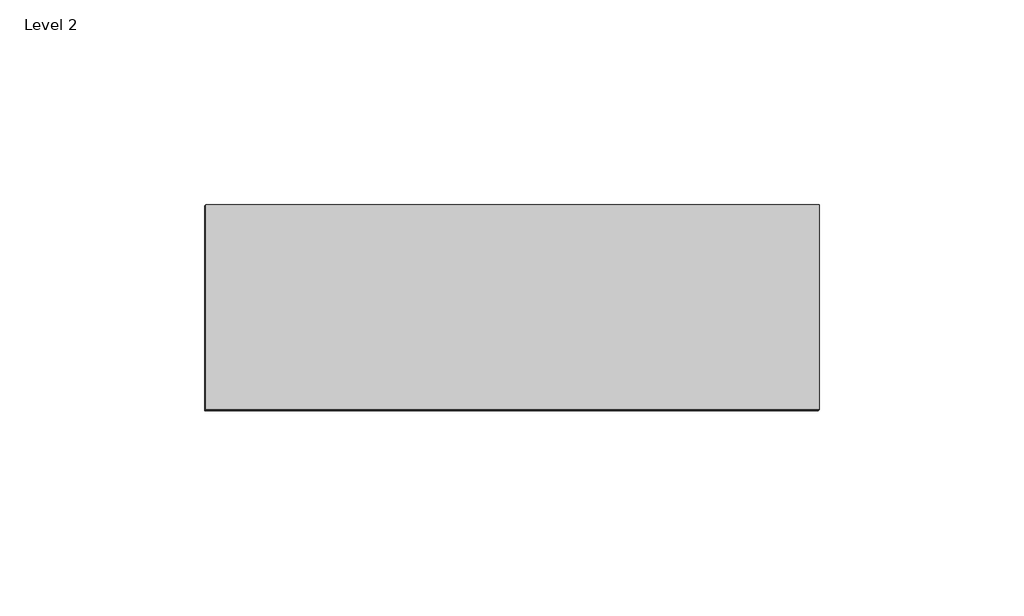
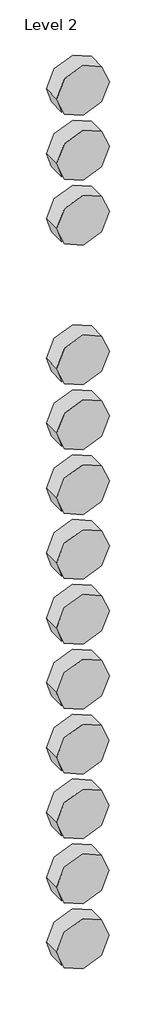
# One storey: 13 proxies.
"""IFC4 building model written with IfcOpenShell, lengths in millimetres."""

import ifcopenshell
import ifcopenshell.guid

model = None  # the IFC model being written
_history = None  # IfcOwnerHistory: only IFC2X3 demands one
_inside = {}  # id of a spatial element -> (the spatial element, [elements in it])
_under = {}  # id of a project, library or spatial element -> (it, [spatial elements below it])
_declared = {}  # id of a project -> (the project, [libraries it declares])
_typed = {}  # id of a type object -> (the type object, [elements of that type])
_made_of = {}  # id of a material, layer set ... -> (it, [elements and type objects made of it])


def new_model(schema):
    """Start an empty IFC model of exactly this schema.

    Asked for "IFC4X3", IfcOpenShell would pick the latest addendum, in which some entities
    have other attributes; the version numbers below select the first issue.
    IFC2X3 requires an IfcOwnerHistory on every rooted entity: one is made here for all.
    """
    global model, _history
    if schema == "IFC4X3":
        model = ifcopenshell.file(schema_version=(4, 3, 0, 0))
    else:
        model = ifcopenshell.file(schema=schema)
    _inside.clear()
    _under.clear()
    _declared.clear()
    _typed.clear()
    _made_of.clear()
    _history = None
    if model.schema == "IFC2X3":
        org = make("IfcOrganization", Name="unknown")
        user = make(
            "IfcPersonAndOrganization",
            ThePerson=make("IfcPerson", FamilyName="unknown"),
            TheOrganization=org,
        )
        app = make(
            "IfcApplication",
            ApplicationDeveloper=org,
            Version="unknown",
            ApplicationFullName="unknown",
            ApplicationIdentifier="unknown",
        )
        _history = make(
            "IfcOwnerHistory",
            OwningUser=user,
            OwningApplication=app,
            ChangeAction="ADDED",
            CreationDate=0,
        )
    return model


def make(cls, **values):
    """One entity of the class cls with the attributes given. An attribute that is None is left unset."""
    return model.create_entity(
        cls, **{name: value for name, value in values.items() if value is not None}
    )


def rooted(cls, **values):
    """An entity with a GlobalId (a new one), such as an element, a storey or a relation."""
    return make(cls, GlobalId=ifcopenshell.guid.new(), OwnerHistory=_history, **values)


def si_unit(unit_type, name, prefix=None):
    """IfcSIUnit, for example si_unit("LENGTHUNIT", "METRE", prefix="MILLI")."""
    return make("IfcSIUnit", UnitType=unit_type, Prefix=prefix, Name=name)


def assignment(units):
    """IfcUnitAssignment: the units of a project."""
    return None if units is None else make("IfcUnitAssignment", Units=units)


def point(xyz):
    """IfcCartesianPoint."""
    return None if xyz is None else make("IfcCartesianPoint", Coordinates=xyz)


def direction(xyz):
    """IfcDirection."""
    return None if xyz is None else make("IfcDirection", DirectionRatios=xyz)


def frame(location, z_axis=None, x_axis=None):
    """IfcAxis2Placement3D, a coordinate frame: its origin and axes. An axis left out is left unset."""
    return make(
        "IfcAxis2Placement3D",
        Location=point(location),
        Axis=direction(z_axis),
        RefDirection=direction(x_axis),
    )


def frame_2d(location, x_axis=None):
    """IfcAxis2Placement2D, a coordinate frame in the plane: its origin and x axis."""
    return make(
        "IfcAxis2Placement2D", Location=point(location), RefDirection=direction(x_axis)
    )


def origin():
    """The frame at (0, 0, 0) with its axes left unset."""
    return frame((0.0, 0.0, 0.0))


def place(relative_to, where):
    """IfcLocalPlacement: puts the frame where relative to a parent placement (None: the world)."""
    return make(
        "IfcLocalPlacement", PlacementRelTo=relative_to, RelativePlacement=where
    )


def context(
    kind, dimensions, precision=None, world=None, true_north=None, identifier=None
):
    """IfcGeometricRepresentationContext, for example the 3D "Model" context."""
    return make(
        "IfcGeometricRepresentationContext",
        ContextIdentifier=identifier,
        ContextType=kind,
        CoordinateSpaceDimension=dimensions,
        Precision=precision,
        WorldCoordinateSystem=world,
        TrueNorth=true_north,
    )


def project(units=None, contexts=None):
    """IfcProject with its units and contexts."""
    return rooted(
        "IfcProject",
        Name="project",
        RepresentationContexts=contexts,
        UnitsInContext=assignment(units),
    )


def spatial(cls, under=None, at=None, **own):
    """A site, building, storey or space (cls), placed at a placement, below another one or the project."""
    s = rooted(cls, ObjectPlacement=at, **own)
    if under is not None:
        _under.setdefault(under.id(), (under, []))[1].append(s)
    return s


def circle_curve(where, radius):
    """IfcCircle in the frame where."""
    return make("IfcCircle", Position=where, Radius=radius)


def trimmed(basis, trim1, trim2, sense, master):
    """IfcTrimmedCurve: the piece of a basis curve between two trims."""
    return make(
        "IfcTrimmedCurve",
        BasisCurve=basis,
        Trim1=trim1,
        Trim2=trim2,
        SenseAgreement=sense,
        MasterRepresentation=master,
    )


def segment(curve, same_sense, transition):
    """IfcCompositeCurveSegment."""
    return make(
        "IfcCompositeCurveSegment",
        Transition=transition,
        SameSense=same_sense,
        ParentCurve=curve,
    )


def composite_curve(segments, self_intersect=None):
    """IfcCompositeCurve: segments joined end to end."""
    return make("IfcCompositeCurve", Segments=segments, SelfIntersect=self_intersect)


def outline(outer, holes=None, kind="AREA"):
    """IfcArbitraryClosedProfileDef: a profile drawn as a closed curve; with holes, ...WithVoids."""
    if holes is None:
        return make("IfcArbitraryClosedProfileDef", ProfileType=kind, OuterCurve=outer)
    return make(
        "IfcArbitraryProfileDefWithVoids",
        ProfileType=kind,
        OuterCurve=outer,
        InnerCurves=holes,
    )


def extrude(swept, where, along, depth):
    """IfcExtrudedAreaSolid: the profile swept, set in the frame where, extruded along a direction by depth."""
    return make(
        "IfcExtrudedAreaSolid",
        SweptArea=swept,
        Position=where,
        ExtrudedDirection=direction(along),
        Depth=depth,
    )


def shape(context_of_items, identifier, shape_type, items):
    """IfcShapeRepresentation: the items that make up one representation, for example the "Body"."""
    return make(
        "IfcShapeRepresentation",
        ContextOfItems=context_of_items,
        RepresentationIdentifier=identifier,
        RepresentationType=shape_type,
        Items=items,
    )


def source(mapping_origin, context_of_items, identifier, shape_type, items):
    """IfcRepresentationMap: a shape defined once, which mapped items show again and again."""
    return make(
        "IfcRepresentationMap",
        MappingOrigin=mapping_origin,
        MappedRepresentation=shape(context_of_items, identifier, shape_type, items),
    )


def transform(
    local_origin,
    x_axis=None,
    y_axis=None,
    z_axis=None,
    scale=None,
    scale2=None,
    scale3=None,
    uniform=True,
):
    """IfcCartesianTransformationOperator3D, or its non-uniform kind. x_axis, y_axis, z_axis: its Axis1, 2, 3."""
    if uniform:
        return make(
            "IfcCartesianTransformationOperator3D",
            Axis1=direction(x_axis),
            Axis2=direction(y_axis),
            LocalOrigin=point(local_origin),
            Scale=scale,
            Axis3=direction(z_axis),
        )
    return make(
        "IfcCartesianTransformationOperator3DnonUniform",
        Axis1=direction(x_axis),
        Axis2=direction(y_axis),
        LocalOrigin=point(local_origin),
        Scale=scale,
        Axis3=direction(z_axis),
        Scale2=scale2,
        Scale3=scale3,
    )


def mapped(mapping_source, mapping_target):
    """IfcMappedItem: shows the shape of a source again, moved by a transform."""
    return make(
        "IfcMappedItem", MappingSource=mapping_source, MappingTarget=mapping_target
    )


def made_of(thing, what):
    """Note that an element or type object is made of a material, layer set ...; save() writes the relation."""
    if what is not None:
        _made_of.setdefault(what.id(), (what, []))[1].append(thing)
    return thing


def element(
    cls,
    number,
    at=None,
    inside=None,
    cuts=None,
    type_object=None,
    material=None,
    context=None,
    identifier="Body",
    shape_type=None,
    held_by="IfcProductDefinitionShape",
    body=None,
    shapes=None,
    **own,
):
    """One element of the class cls, such as IfcWall. Its Tag is "e" and its number.

    at: its placement. inside: the storey or other place that contains it. cuts: it is an
    opening in that element (IfcRelVoidsElement). A single representation is given by context,
    identifier, shape_type and body (its items); several are given by shapes. held_by: the class
    of the entity that holds the representations. save() writes the other relations.
    """
    e = rooted(cls, Tag="e%d" % number, ObjectPlacement=at, **own)
    if body is not None:
        shapes = [shape(context, identifier, shape_type, body)]
    if shapes is not None:
        e.Representation = make(held_by, Representations=shapes)
    if inside is not None:
        _inside.setdefault(inside.id(), (inside, []))[1].append(e)
    if cuts is not None:
        rooted(
            "IfcRelVoidsElement", RelatingBuildingElement=cuts, RelatedOpeningElement=e
        )
    if type_object is not None:
        _typed.setdefault(type_object.id(), (type_object, []))[1].append(e)
    return made_of(e, material)


def aggregate(whole, parts):
    """IfcRelAggregates: a whole, such as a stair, and the parts it consists of."""
    return rooted("IfcRelAggregates", RelatingObject=whole, RelatedObjects=parts)


def save(model, path):
    """Write the relations noted so far, then the file.

    IfcRelAggregates (storeys below a building ...), IfcRelContainedInSpatialStructure (elements
    in a storey), IfcRelDefinesByType, IfcRelAssociatesMaterial and IfcRelDeclares: one each for
    every whole, place, type object, material and project.
    """
    for whole, parts in _under.values():
        aggregate(whole, parts)
    for where, things in _inside.values():
        rooted(
            "IfcRelContainedInSpatialStructure",
            RelatedElements=things,
            RelatingStructure=where,
        )
    for kind, things in _typed.values():
        rooted("IfcRelDefinesByType", RelatedObjects=things, RelatingType=kind)
    for what, things in _made_of.values():
        rooted("IfcRelAssociatesMaterial", RelatedObjects=things, RelatingMaterial=what)
    for by, libraries in _declared.values():
        rooted("IfcRelDeclares", RelatingContext=by, RelatedDefinitions=libraries)
    model.write(path)


def materialmodel_materialmodel_17b3a4fc(model_context):
    return source(origin(), model_context, "Body", "SweptSolid", [
        extrude(outline(composite_curve([segment(trimmed(circle_curve(frame_2d((300.0, 0.0)), 75.0), [point((300.0, -75.0))], [point((300.0, 75.0))], False, "CARTESIAN"), True, "CONTINUOUS"), segment(trimmed(circle_curve(frame_2d((300.0, 0.0)), 75.0), [point((300.0, 75.0))], [point((300.0, -75.0))], False, "CARTESIAN"), True, "CONTINUOUS")], self_intersect=False)), frame((0.0, -50.0, 0.0), z_axis=(0.0, 1.0, 0.0), x_axis=(0.0, 0.0, 1.0)), (0.0, 0.0, 1.0), 50.0),
    ])


model = new_model("IFC4")

# Units and contexts
model_context = context("Model", 3, world=origin())
ifc_project = project(units=[si_unit("LENGTHUNIT", "METRE", prefix="MILLI")], contexts=[model_context])

# Site, building, storey
site = spatial("IfcSite", under=ifc_project)
building = spatial("IfcBuilding", under=site)
storey = spatial("IfcBuildingStorey", under=building, Name="Level 2", Elevation=4000.0)

# Proxies
placement = place(None, origin())
materialmodel_materialmodel_shape = materialmodel_materialmodel_17b3a4fc(model_context)
element("IfcBuildingElementProxy", 1, Name="MaterialModel : MaterialModel", ObjectType="MaterialModel : MaterialModel", at=placement, inside=storey, context=model_context, shape_type="MappedRepresentation", body=[
    mapped(materialmodel_materialmodel_shape, transform((-5405.8803809, 2209.4764129, 1014.0923111), x_axis=(1.0, 0.0, 0.0), y_axis=(0.0, 1.0, 0.0), z_axis=(0.0, 0.0, 1.0))),
])
element("IfcBuildingElementProxy", 2, Name="MaterialModel : MaterialModel", ObjectType="MaterialModel : MaterialModel", at=placement, inside=storey, context=model_context, shape_type="MappedRepresentation", body=[
    mapped(materialmodel_materialmodel_shape, transform((-5406.1753076, 2209.4764129, -1355.5819787), x_axis=(1.0, 0.0, 0.0), y_axis=(0.0, 1.0, 0.0), z_axis=(0.0, 0.0, 1.0))),
])
element("IfcBuildingElementProxy", 3, Name="MaterialModel : MaterialModel", ObjectType="MaterialModel : MaterialModel", at=placement, inside=storey, context=model_context, shape_type="MappedRepresentation", body=[
    mapped(materialmodel_materialmodel_shape, transform((-5405.8506729, 2209.4764129, 1209.0627182), x_axis=(1.0, 0.0, 0.0), y_axis=(0.0, 1.0, 0.0), z_axis=(0.0, 0.0, 1.0))),
])
element("IfcBuildingElementProxy", 4, Name="MaterialModel : MaterialModel", ObjectType="MaterialModel : MaterialModel", at=placement, inside=storey, context=model_context, shape_type="MappedRepresentation", body=[
    mapped(materialmodel_materialmodel_shape, transform((-5405.9397969, 2209.4764129, 399.151497), x_axis=(1.0, 0.0, 0.0), y_axis=(0.0, 1.0, 0.0), z_axis=(0.0, 0.0, 1.0))),
])
element("IfcBuildingElementProxy", 5, Name="MaterialModel : MaterialModel", ObjectType="MaterialModel : MaterialModel", at=placement, inside=storey, context=model_context, shape_type="MappedRepresentation", body=[
    mapped(materialmodel_materialmodel_shape, transform((-5405.9100889, 2209.4764129, 819.1219041), x_axis=(1.0, 0.0, 0.0), y_axis=(0.0, 1.0, 0.0), z_axis=(0.0, 0.0, 1.0))),
])
element("IfcBuildingElementProxy", 6, Name="MaterialModel : MaterialModel", ObjectType="MaterialModel : MaterialModel", at=placement, inside=storey, context=model_context, shape_type="MappedRepresentation", body=[
    mapped(materialmodel_materialmodel_shape, transform((-5405.9992129, 2209.4764129, 9.2106828), x_axis=(1.0, 0.0, 0.0), y_axis=(0.0, 1.0, 0.0), z_axis=(0.0, 0.0, 1.0))),
])
element("IfcBuildingElementProxy", 7, Name="MaterialModel : MaterialModel", ObjectType="MaterialModel : MaterialModel", at=placement, inside=storey, context=model_context, shape_type="MappedRepresentation", body=[
    mapped(materialmodel_materialmodel_shape, transform((-5405.9695049, 2209.4764129, 204.1810899), x_axis=(1.0, 0.0, 0.0), y_axis=(0.0, 1.0, 0.0), z_axis=(0.0, 0.0, 1.0))),
])
element("IfcBuildingElementProxy", 8, Name="MaterialModel : MaterialModel", ObjectType="MaterialModel : MaterialModel", at=placement, inside=storey, context=model_context, shape_type="MappedRepresentation", body=[
    mapped(materialmodel_materialmodel_shape, transform((-5406.0586289, 2209.4764129, -380.7301313), x_axis=(1.0, 0.0, 0.0), y_axis=(0.0, 1.0, 0.0), z_axis=(0.0, 0.0, 1.0))),
])
element("IfcBuildingElementProxy", 9, Name="MaterialModel : MaterialModel", ObjectType="MaterialModel : MaterialModel", at=placement, inside=storey, context=model_context, shape_type="MappedRepresentation", body=[
    mapped(materialmodel_materialmodel_shape, transform((-5406.0289209, 2209.4764129, -185.7597242), x_axis=(1.0, 0.0, 0.0), y_axis=(0.0, 1.0, 0.0), z_axis=(0.0, 0.0, 1.0))),
])
element("IfcBuildingElementProxy", 10, Name="MaterialModel : MaterialModel", ObjectType="MaterialModel : MaterialModel", at=placement, inside=storey, context=model_context, shape_type="MappedRepresentation", body=[
    mapped(materialmodel_materialmodel_shape, transform((-5406.1180449, 2209.4764129, -770.6709455), x_axis=(1.0, 0.0, 0.0), y_axis=(0.0, 1.0, 0.0), z_axis=(0.0, 0.0, 1.0))),
])
element("IfcBuildingElementProxy", 11, Name="MaterialModel : MaterialModel", ObjectType="MaterialModel : MaterialModel", at=placement, inside=storey, context=model_context, shape_type="MappedRepresentation", body=[
    mapped(materialmodel_materialmodel_shape, transform((-5406.0883369, 2209.4764129, -575.7005384), x_axis=(1.0, 0.0, 0.0), y_axis=(0.0, 1.0, 0.0), z_axis=(0.0, 0.0, 1.0))),
])
element("IfcBuildingElementProxy", 12, Name="MaterialModel : MaterialModel", ObjectType="MaterialModel : MaterialModel", at=placement, inside=storey, context=model_context, shape_type="MappedRepresentation", body=[
    mapped(materialmodel_materialmodel_shape, transform((-5406.1774609, 2209.4764129, -1160.6117596), x_axis=(1.0, 0.0, 0.0), y_axis=(0.0, 1.0, 0.0), z_axis=(0.0, 0.0, 1.0))),
])
element("IfcBuildingElementProxy", 13, Name="MaterialModel : MaterialModel", ObjectType="MaterialModel : MaterialModel", at=placement, inside=storey, context=model_context, shape_type="MappedRepresentation", body=[
    mapped(materialmodel_materialmodel_shape, transform((-5406.1772651, 2209.4764129, -965.6415268), x_axis=(1.0, 0.0, 0.0), y_axis=(0.0, 1.0, 0.0), z_axis=(0.0, 0.0, 1.0))),
])

save(model, "model.ifc")
